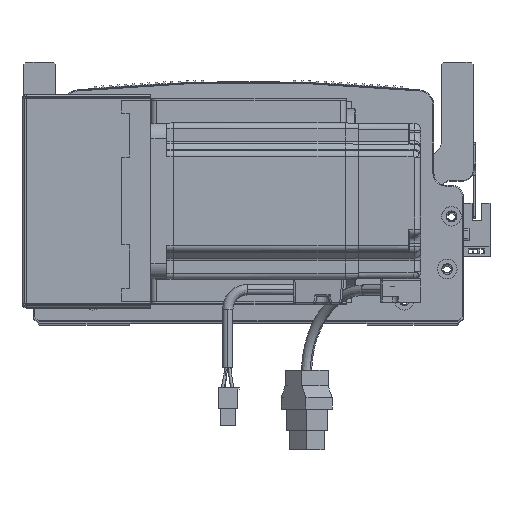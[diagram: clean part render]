
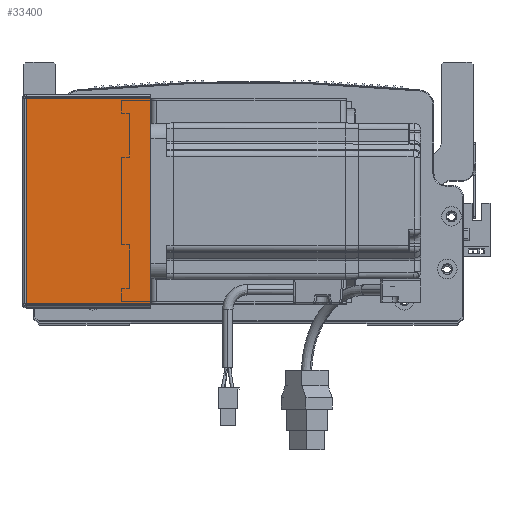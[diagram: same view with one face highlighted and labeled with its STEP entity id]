
A CAD part, top view. The second image highlights one B-rep face of the part: STEP entity #33400.
In plain terms, the highlighted planar face has unit normal (0, 0, 1) as drawn and (0, 0, -1) by its records, which use the part's own axes.
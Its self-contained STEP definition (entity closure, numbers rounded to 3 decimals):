
#214 = EDGE_CURVE ( 'NONE', #33730, #49378, #29505, .T. ) ;
#469 = LINE ( 'NONE', #79403, #56455 ) ;
#3811 = VERTEX_POINT ( 'NONE', #56161 ) ;
#4903 = CARTESIAN_POINT ( 'NONE',  ( 0.737, 105.293, -205.5 ) ) ;
#11434 = CARTESIAN_POINT ( 'NONE',  ( 0., 105.293, -205.5 ) ) ;
#16940 = DIRECTION ( 'NONE',  ( 0., 0., 1. ) ) ;
#17107 = DIRECTION ( 'NONE',  ( 1., 0., 0. ) ) ;
#17268 = DIRECTION ( 'NONE',  ( 0., -1., 0. ) ) ;
#17441 = FACE_OUTER_BOUND ( 'NONE', #32321, .T. ) ;
#19061 = ORIENTED_EDGE ( 'NONE', *, *, #45710, .F. ) ;
#22871 = ORIENTED_EDGE ( 'NONE', *, *, #66789, .T. ) ;
#23264 = CARTESIAN_POINT ( 'NONE',  ( 0.737, 0.707, -205.5 ) ) ;
#25560 = VECTOR ( 'NONE', #46047, 1000. ) ;
#29505 = LINE ( 'NONE', #39746, #25560 ) ;
#30385 = DIRECTION ( 'NONE',  ( 1., 0., 0. ) ) ;
#32321 = EDGE_LOOP ( 'NONE', ( #75468, #22871, #65077, #19061 ) ) ;
#33400 = ADVANCED_FACE ( 'NONE', ( #17441 ), #54988, .F. ) ;
#33730 = VERTEX_POINT ( 'NONE', #4903 ) ;
#33803 = LINE ( 'NONE', #35404, #62248 ) ;
#35404 = CARTESIAN_POINT ( 'NONE',  ( 64.5, 0., -205.5 ) ) ;
#38493 = LINE ( 'NONE', #11434, #60005 ) ;
#39746 = CARTESIAN_POINT ( 'NONE',  ( 0.737, 0., -205.5 ) ) ;
#45710 = EDGE_CURVE ( 'NONE', #49378, #3811, #469, .T. ) ;
#46047 = DIRECTION ( 'NONE',  ( 0., -1., 0. ) ) ;
#49378 = VERTEX_POINT ( 'NONE', #23264 ) ;
#53381 = EDGE_CURVE ( 'NONE', #61311, #3811, #33803, .T. ) ;
#54988 = PLANE ( 'NONE',  #74247 ) ;
#56161 = CARTESIAN_POINT ( 'NONE',  ( 64.5, 0.707, -205.5 ) ) ;
#56455 = VECTOR ( 'NONE', #17107, 1000. ) ;
#60005 = VECTOR ( 'NONE', #30385, 1000. ) ;
#61311 = VERTEX_POINT ( 'NONE', #66794 ) ;
#62248 = VECTOR ( 'NONE', #17268, 1000. ) ;
#65077 = ORIENTED_EDGE ( 'NONE', *, *, #53381, .T. ) ;
#66789 = EDGE_CURVE ( 'NONE', #33730, #61311, #38493, .T. ) ;
#66794 = CARTESIAN_POINT ( 'NONE',  ( 64.5, 105.293, -205.5 ) ) ;
#67114 = DIRECTION ( 'NONE',  ( 1., 0., 0. ) ) ;
#74247 = AXIS2_PLACEMENT_3D ( 'NONE', #80301, #16940, #67114 ) ;
#75468 = ORIENTED_EDGE ( 'NONE', *, *, #214, .F. ) ;
#79403 = CARTESIAN_POINT ( 'NONE',  ( 0., 0.707, -205.5 ) ) ;
#80301 = CARTESIAN_POINT ( 'NONE',  ( 0., 0., -205.5 ) ) ;
